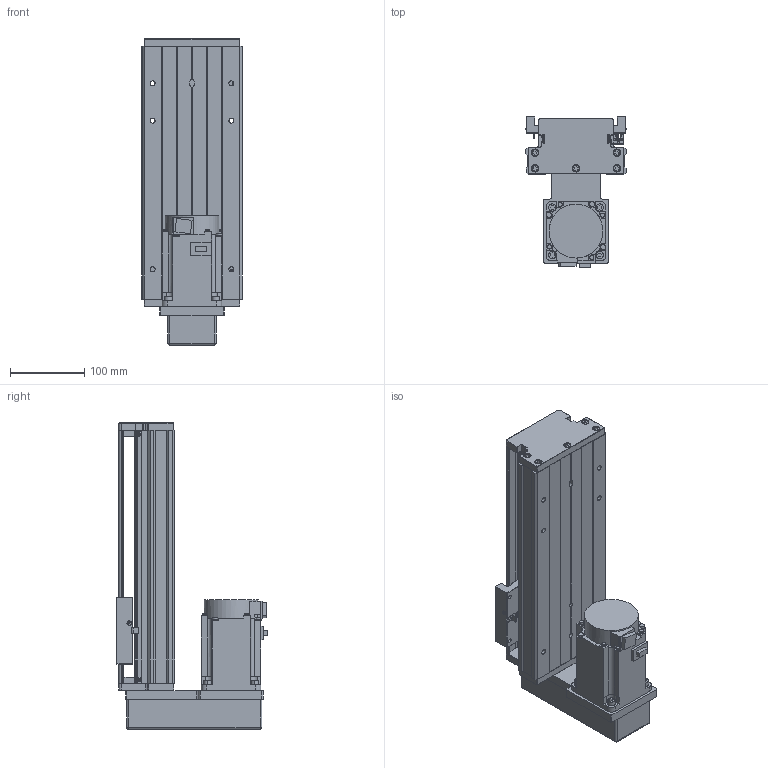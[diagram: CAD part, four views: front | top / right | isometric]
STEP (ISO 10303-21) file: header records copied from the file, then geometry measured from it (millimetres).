
FILE_DESCRIPTION (( 'STEP AP203' ), '1' );
FILE_NAME ('KTH130-200-BM-M75-C4.step', '2023-06-30T04:36:45', ( '微软用户' ), ( '微软中国' ), 'SwSTEP 2.0', 'SolidWorks 2020', '' );
FILE_SCHEMA (( 'CONFIG_CONTROL_DESIGN' ));
Length unit declared in the file: millimetre
Products named in the file (18): GTH14-001_200; CTHA60-017; hg-kn73j_-s100; KTH130-002_KTH130-002; EE_SX911P_R; CTHA86-015-3_CTHA86-015-4; KTH130-004; CTHA60-016; CTHA86-035; KTH130-005; GBT 70.1-M3℅5; KTH130-200-BM-M75-C4; GB1155-6X6; GBT77-2000 M3×3; GBT70.1 M5℅16; す晦芛蹟隊 M3℅5; GBT 70.2-M3¡Á5_M3¡Á6; GBT 70.3-M3℅8
Assembly tree (49 placements, depth 2):
  KTH130-200-BM-M75-C4
    GTH14-001_200
    KTH130-002_KTH130-002
    KTH130-004
    KTH130-005
    GB1155-6X6  x2
    GBT70.1 M5℅16  x10
    GBT 70.2-M3¡Á5_M3¡Á6  x4
    CTHA60-017  x3
    EE_SX911P_R  x3
    CTHA60-016  x2
    GBT 70.1-M3℅5  x6
    GBT77-2000 M3×3  x6
    す晦芛蹟隊 M3℅5  x2
    GBT 70.3-M3℅8  x4
    hg-kn73j_-s100
    CTHA86-015-3_CTHA86-015-4
    CTHA86-035
Bounding box: 135 x 202.8 x 412 mm (x, y, z)
Volume: 3417903.5 mm3; surface area: 498630.1 mm2
Topology: 52 solids, 52 shells, 2172 faces, 5268 edges, 3295 vertices
Faces by surface type: plane 1204, cylinder 614, cone 238, torus 100, sphere 16
Entity records: 39329 total; most frequent: CARTESIAN_POINT 6622, DIRECTION 6457, ORIENTED_EDGE 6040, EDGE_CURVE 3020, AXIS2_PLACEMENT_3D 2248, VECTOR 1961, LINE 1961, VERTEX_POINT 1929
